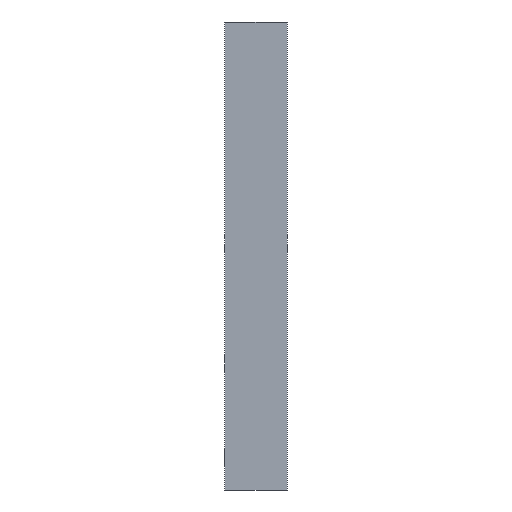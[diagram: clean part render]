
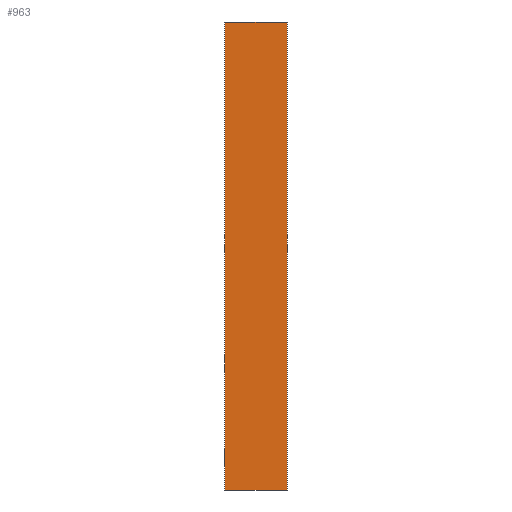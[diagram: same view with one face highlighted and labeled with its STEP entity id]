
A CAD part, left-side view. The second image highlights one B-rep face of the part: STEP entity #963.
In plain terms, the highlighted planar face has unit normal (-1, 0, 0).
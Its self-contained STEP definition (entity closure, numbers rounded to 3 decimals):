
#15 = VERTEX_POINT ( 'NONE', #1344 ) ;
#17 = VERTEX_POINT ( 'NONE', #1342 ) ;
#22 = VERTEX_POINT ( 'NONE', #1337 ) ;
#104 = ORIENTED_EDGE ( 'NONE', *, *, #388, .T. ) ;
#111 = ORIENTED_EDGE ( 'NONE', *, *, #365, .F. ) ;
#172 = ORIENTED_EDGE ( 'NONE', *, *, #367, .F. ) ;
#193 = ORIENTED_EDGE ( 'NONE', *, *, #366, .T. ) ;
#262 = EDGE_LOOP ( 'NONE', ( #193, #111, #172, #104 ) ) ;
#365 = EDGE_CURVE ( 'NONE', #17, #15, #1135, .T. ) ;
#366 = EDGE_CURVE ( 'NONE', #1363, #15, #1141, .T. ) ;
#367 = EDGE_CURVE ( 'NONE', #22, #17, #1139, .T. ) ;
#388 = EDGE_CURVE ( 'NONE', #22, #1363, #1181, .T. ) ;
#479 = CARTESIAN_POINT ( 'NONE',  ( -54., -14., 210. ) ) ;
#487 = PLANE ( 'NONE',  #1370 ) ;
#489 = DIRECTION ( 'NONE',  ( 1., 0., 0. ) ) ;
#490 = DIRECTION ( 'NONE',  ( 0., 0., -1. ) ) ;
#652 = CARTESIAN_POINT ( 'NONE',  ( -54., 14., 0. ) ) ;
#824 = CARTESIAN_POINT ( 'NONE',  ( -54., -14., 210. ) ) ;
#829 = CARTESIAN_POINT ( 'NONE',  ( -54., -14., 210. ) ) ;
#835 = DIRECTION ( 'NONE',  ( 0., 0., -1. ) ) ;
#836 = CARTESIAN_POINT ( 'NONE',  ( -54., -14., 0. ) ) ;
#838 = DIRECTION ( 'NONE',  ( 0., -1., 0. ) ) ;
#839 = DIRECTION ( 'NONE',  ( 0., -1., 0. ) ) ;
#880 = CARTESIAN_POINT ( 'NONE',  ( -54., 14., 210. ) ) ;
#883 = DIRECTION ( 'NONE',  ( 0., 0., -1. ) ) ;
#963 = ADVANCED_FACE ( 'NONE', ( #1184 ), #487, .F. ) ;
#1135 = LINE ( 'NONE', #824, #1142 ) ;
#1139 = LINE ( 'NONE', #829, #1146 ) ;
#1141 = LINE ( 'NONE', #836, #1144 ) ;
#1142 = VECTOR ( 'NONE', #835, 1000. ) ;
#1144 = VECTOR ( 'NONE', #838, 1000. ) ;
#1146 = VECTOR ( 'NONE', #839, 1000. ) ;
#1181 = LINE ( 'NONE', #880, #1185 ) ;
#1184 = FACE_OUTER_BOUND ( 'NONE', #262, .T. ) ;
#1185 = VECTOR ( 'NONE', #883, 1000. ) ;
#1337 = CARTESIAN_POINT ( 'NONE',  ( -54., 14., 210. ) ) ;
#1342 = CARTESIAN_POINT ( 'NONE',  ( -54., -14., 210. ) ) ;
#1344 = CARTESIAN_POINT ( 'NONE',  ( -54., -14., 0. ) ) ;
#1363 = VERTEX_POINT ( 'NONE', #652 ) ;
#1370 = AXIS2_PLACEMENT_3D ( 'NONE', #479, #489, #490 ) ;
